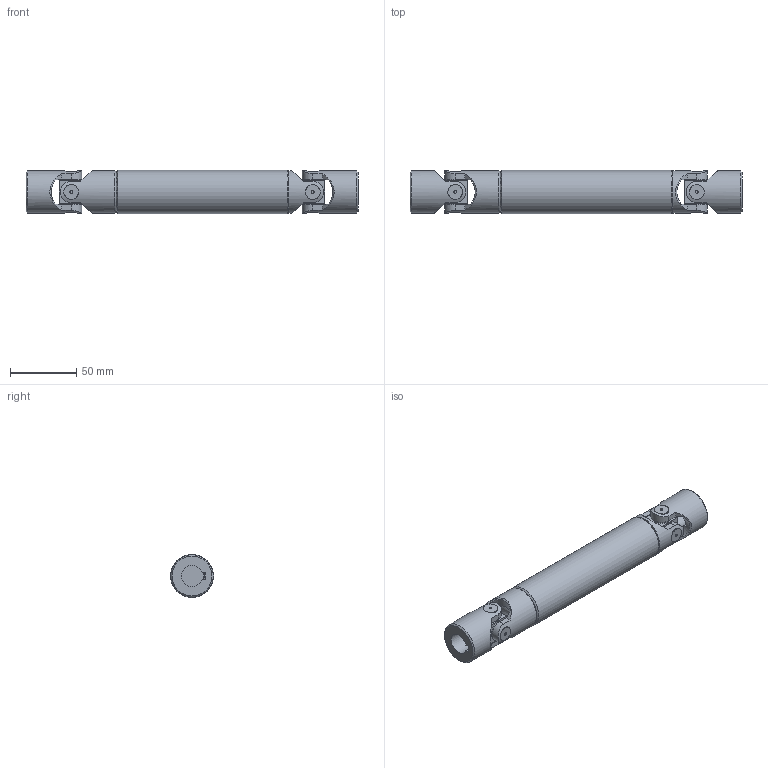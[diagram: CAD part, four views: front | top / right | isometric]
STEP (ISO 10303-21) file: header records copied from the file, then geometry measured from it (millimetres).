
FILE_DESCRIPTION(/* description */ (''),/* implementation_level */ '2;1');
FILE_NAME(/* name */ '\\SRV2016\Societa\Stefano\Disegni 3D\00Catalogo 3D\03Trasmissioni standard GA\1GA23\1GA23_SG0A1623.stp',/* time_stamp */ '2022-02-16T16:13:38+01:00',/* author */ ('acquisti'),/* organization */ (''),/* preprocessor_version */ 'ST-DEVELOPER v15.6',/* originating_system */ 'Autodesk Inventor 2015',/* authorisation */ '');
FILE_SCHEMA (('AUTOMOTIVE_DESIGN { 1 0 10303 214 3 1 1 }'));
Length unit declared in the file: millimetre
Products named in the file (5): 1GA23 LAI; 1GA23 LCI; 1G MOC; 1G SFE; 1GA23_SG0A1623
Assembly tree (6 placements, depth 2):
  1GA23_SG0A1623
    1GA23 LAI
    1GA23 LCI
    1G MOC  x2
    1G SFE  x2
Bounding box: 250 x 32.5 x 32.5 mm (x, y, z)
Volume: 148549.8 mm3; surface area: 57300.2 mm2
Topology: 6 solids, 6 shells, 228 faces, 551 edges, 359 vertices
Faces by surface type: plane 106, cylinder 93, cone 25, torus 4
Full cylindrical faces by diameter (mm): 2 x8, 15.5 x8, 16 x1, 18 x2, 27 x1, 32 x4, 32.5 x1
Entity records: 5689 total; most frequent: CARTESIAN_POINT 1639, DIRECTION 823, ORIENTED_EDGE 796, EDGE_CURVE 398, AXIS2_PLACEMENT_3D 335, VERTEX_POINT 274, EDGE_LOOP 224, FACE_OUTER_BOUND 176
